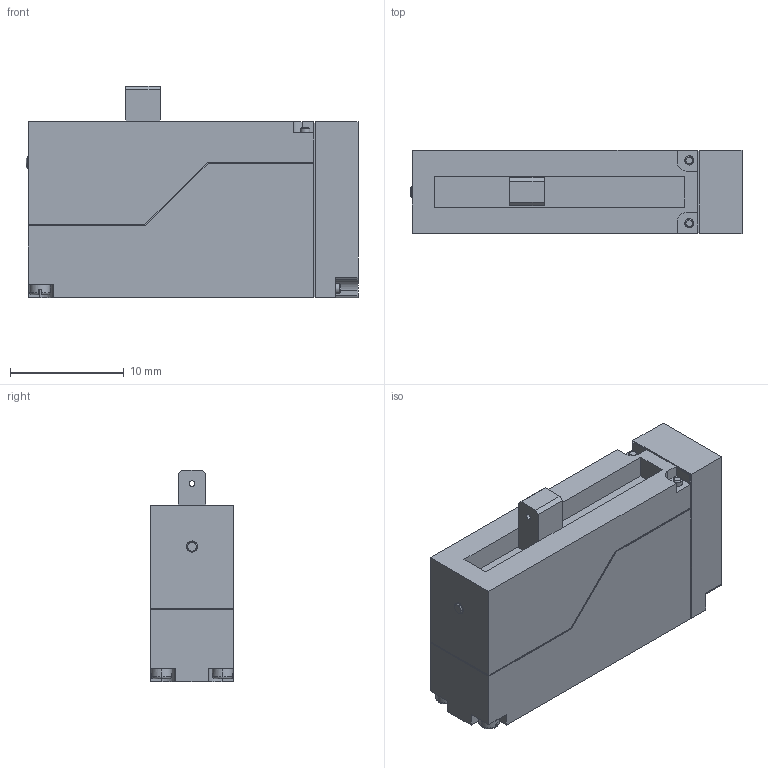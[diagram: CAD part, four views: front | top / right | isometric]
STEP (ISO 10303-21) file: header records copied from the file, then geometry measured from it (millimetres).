
FILE_DESCRIPTION (( 'STEP AP214' ), '1' );
FILE_NAME ('Servo linear VS-19.STEP', '2015-01-01T15:31:57', ( '' ), ( '' ), 'SwSTEP 2.0', 'SolidWorks 2014', '' );
FILE_SCHEMA (( 'AUTOMOTIVE_DESIGN' ));
Length unit declared in the file: millimetre
Products named in the file (1): Servo linear VS-19
Bounding box: 29.2 x 7.3 x 18.6 mm (x, y, z)
Volume: 3174.6 mm3; surface area: 1756 mm2
Topology: 1 solids, 1 shells, 145 faces, 377 edges, 246 vertices
Faces by surface type: plane 99, cylinder 30, cone 10, torus 6
Entity records: 5434 total; most frequent: CARTESIAN_POINT 809, ORIENTED_EDGE 754, DIRECTION 753, EDGE_CURVE 377, LINE 277, VECTOR 277, VERTEX_POINT 246, AXIS2_PLACEMENT_3D 238
